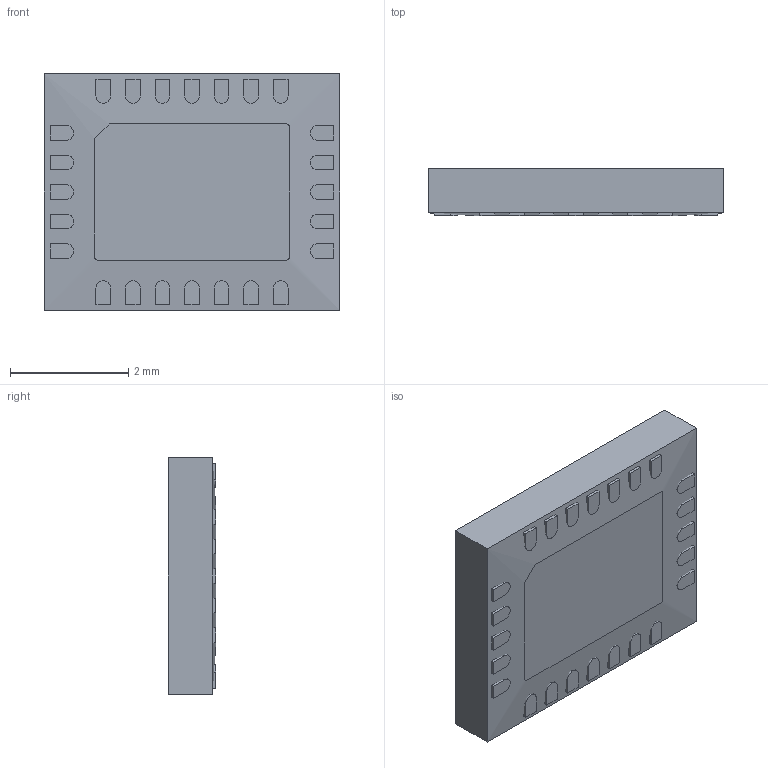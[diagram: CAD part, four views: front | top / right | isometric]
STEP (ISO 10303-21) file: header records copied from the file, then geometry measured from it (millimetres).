
FILE_DESCRIPTION (( 'STEP AP214' ), '1' );
FILE_NAME ( 'PQFN50P500X400X80-25T230X330.STEP', '2014-04-11T12:31:20', ( '' ), ( '' ), 'FPX Expert 2013', 'PCB Libraries', '' );
FILE_SCHEMA (( 'AUTOMOTIVE_DESIGN' ));
Length unit declared in the file: millimetre
Products named in the file (1): PQFN50P500X400X80-25T230X330
Bounding box: 5 x 0.8 x 4 mm (x, y, z)
Volume: 15.2 mm3; surface area: 79 mm2
Topology: 26 solids, 26 shells, 196 faces, 426 edges, 284 vertices
Faces by surface type: plane 140, cylinder 54, torus 2
Entity records: 6151 total; most frequent: DIRECTION 934, CARTESIAN_POINT 907, ORIENTED_EDGE 852, EDGE_CURVE 426, VECTOR 312, LINE 312, AXIS2_PLACEMENT_3D 311, VERTEX_POINT 284
